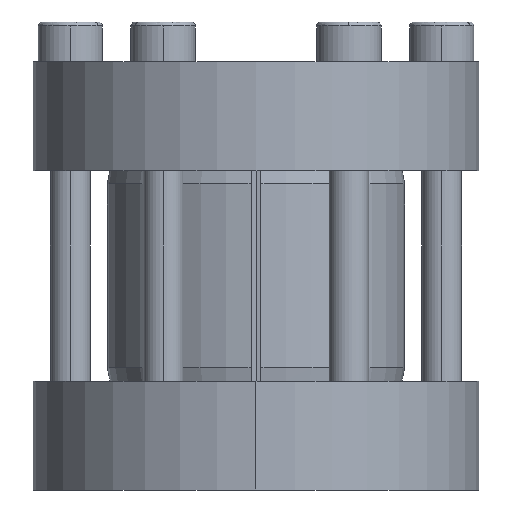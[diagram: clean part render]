
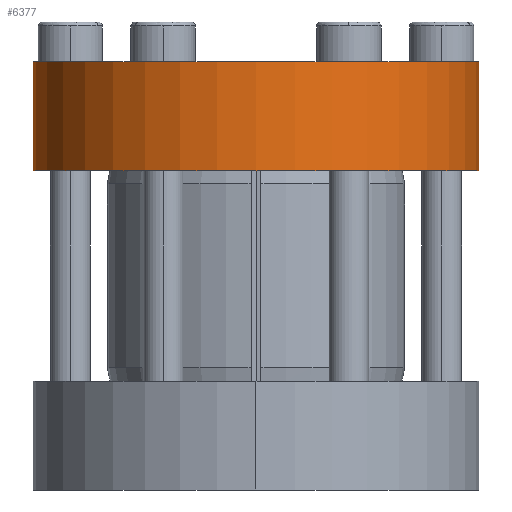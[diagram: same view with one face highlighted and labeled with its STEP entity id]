
A CAD part, left-side view. The second image highlights one B-rep face of the part: STEP entity #6377.
In plain terms, the highlighted cylindrical face has radius 45 mm (diameter 90 mm), a partial arc.
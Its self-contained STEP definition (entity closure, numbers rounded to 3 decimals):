
#346 = AXIS2_PLACEMENT_3D ( 'NONE', #1593, #5516, #2153 ) ;
#508 = VERTEX_POINT ( 'NONE', #4991 ) ;
#511 = DIRECTION ( 'NONE',  ( 0., 0., 1. ) ) ;
#647 = VECTOR ( 'NONE', #6044, 1000. ) ;
#678 = AXIS2_PLACEMENT_3D ( 'NONE', #3888, #511, #4449 ) ;
#753 = CARTESIAN_POINT ( 'NONE',  ( 0., 45., 64.486 ) ) ;
#1081 = DIRECTION ( 'NONE',  ( 0., 0., 1. ) ) ;
#1547 = CARTESIAN_POINT ( 'NONE',  ( 0., -45., 64.486 ) ) ;
#1593 = CARTESIAN_POINT ( 'NONE',  ( 0., 0., 86.486 ) ) ;
#1660 = CARTESIAN_POINT ( 'NONE',  ( 0., 0., 64.486 ) ) ;
#1786 = EDGE_CURVE ( 'NONE', #3085, #4095, #3430, .T. ) ;
#2153 = DIRECTION ( 'NONE',  ( 0., -1., 0. ) ) ;
#2469 = CARTESIAN_POINT ( 'NONE',  ( 0., 45., 86.486 ) ) ;
#2594 = CYLINDRICAL_SURFACE ( 'NONE', #2791, 45. ) ;
#2763 = DIRECTION ( 'NONE',  ( 0., -1., 0. ) ) ;
#2791 = AXIS2_PLACEMENT_3D ( 'NONE', #1660, #1081, #2763 ) ;
#3021 = DIRECTION ( 'NONE',  ( 0., 0., 1. ) ) ;
#3085 = VERTEX_POINT ( 'NONE', #753 ) ;
#3430 = LINE ( 'NONE', #3579, #6242 ) ;
#3579 = CARTESIAN_POINT ( 'NONE',  ( 0., 45., 64.486 ) ) ;
#3888 = CARTESIAN_POINT ( 'NONE',  ( 0., 0., 64.486 ) ) ;
#4095 = VERTEX_POINT ( 'NONE', #2469 ) ;
#4144 = ORIENTED_EDGE ( 'NONE', *, *, #5015, .T. ) ;
#4276 = ORIENTED_EDGE ( 'NONE', *, *, #6614, .T. ) ;
#4449 = DIRECTION ( 'NONE',  ( 0., -1., 0. ) ) ;
#4572 = ORIENTED_EDGE ( 'NONE', *, *, #5659, .T. ) ;
#4863 = VERTEX_POINT ( 'NONE', #6031 ) ;
#4970 = LINE ( 'NONE', #1547, #647 ) ;
#4991 = CARTESIAN_POINT ( 'NONE',  ( 0., -45., 64.486 ) ) ;
#5015 = EDGE_CURVE ( 'NONE', #4863, #4095, #5198, .T. ) ;
#5198 = CIRCLE ( 'NONE', #346, 45. ) ;
#5265 = CIRCLE ( 'NONE', #678, 45. ) ;
#5516 = DIRECTION ( 'NONE',  ( 0., 0., -1. ) ) ;
#5583 = FACE_OUTER_BOUND ( 'NONE', #5823, .T. ) ;
#5659 = EDGE_CURVE ( 'NONE', #3085, #508, #5265, .T. ) ;
#5823 = EDGE_LOOP ( 'NONE', ( #5966, #4572, #4276, #4144 ) ) ;
#5966 = ORIENTED_EDGE ( 'NONE', *, *, #1786, .F. ) ;
#6031 = CARTESIAN_POINT ( 'NONE',  ( 0., -45., 86.486 ) ) ;
#6044 = DIRECTION ( 'NONE',  ( 0., 0., 1. ) ) ;
#6242 = VECTOR ( 'NONE', #3021, 1000. ) ;
#6377 = ADVANCED_FACE ( 'NONE', ( #5583 ), #2594, .T. ) ;
#6614 = EDGE_CURVE ( 'NONE', #508, #4863, #4970, .T. ) ;
